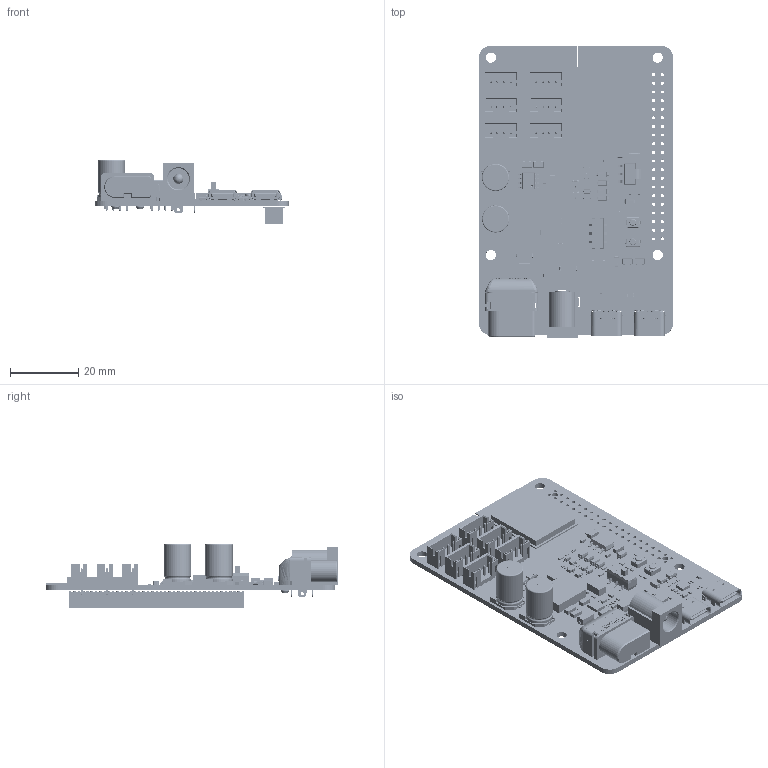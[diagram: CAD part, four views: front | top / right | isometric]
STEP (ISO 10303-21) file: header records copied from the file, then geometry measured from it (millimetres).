
FILE_DESCRIPTION(('Open CASCADE Model'),'2;1');
FILE_NAME('Open CASCADE Shape Model','2024-12-19T11:19:51',('Author'),( 'Open CASCADE'),'Open CASCADE STEP processor 6.5','Open CASCADE 6.5' ,'Unknown');
FILE_SCHEMA(('AUTOMOTIVE_DESIGN { 1 0 10303 214 1 1 1 1 }'));
Length unit declared in the file: millimetre
Products named in the file (223): PCB; Board; P7; PH2.0-LI-4P; PH2_0-LI-4P-4197_AF0_ASM; PH2_0-LI-4P-1329_AF0; PH2_0-LI-_1_200; P6; P5; P4; P3; P1; C15; CS_SMD_8x12; CT_8X12-C-3374_AF0_ASM; CT_8X12-C-12358_AF0_ASM; _4_1_2_3_4_AF0; _3_1__1_2_3_40001; _3_2__1_2_3_40001; C14; R34; R0402; R_0402-5222_AF0_ASM; R_0402-3099_AF0_ASM; _2_1_20001; 5_1_2_A; _7_AF0; R24; R23; R22; LED4; User_Library-LED_0603_R; User_Library-LED_0603_R_Pocket002; User_Library-LED_0603_R_Pad004; User_Library-LED_0603_R_Fillet; User_Library-LED_0603_R_Pocket001; User_Library-LED_0603_R_Pad; LED2; Q5; User_Library-SOT323_(SC70-3)-1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
Assembly tree (317 placements, depth 6):
  PCB
    Board
    P7
      PH2.0-LI-4P
        PH2_0-LI-4P-4197_AF0_ASM
          PH2_0-LI-4P-1329_AF0
          PH2_0-LI-_1_200  x4
    P6
      PH2.0-LI-4P
        PH2_0-LI-4P-4197_AF0_ASM
          PH2_0-LI-4P-1329_AF0
          PH2_0-LI-_1_200  x4
    P5
      PH2.0-LI-4P
        PH2_0-LI-4P-4197_AF0_ASM
          PH2_0-LI-4P-1329_AF0
          PH2_0-LI-_1_200  x4
    P4
      PH2.0-LI-4P
        PH2_0-LI-4P-4197_AF0_ASM
          PH2_0-LI-4P-1329_AF0
          PH2_0-LI-_1_200  x4
    P3
      PH2.0-LI-4P
        PH2_0-LI-4P-4197_AF0_ASM
          PH2_0-LI-4P-1329_AF0
          PH2_0-LI-_1_200  x4
    P1
      PH2.0-LI-4P
        PH2_0-LI-4P-4197_AF0_ASM
          PH2_0-LI-4P-1329_AF0
          PH2_0-LI-_1_200  x4
    C15
      CS_SMD_8x12
        CT_8X12-C-3374_AF0_ASM
          CT_8X12-C-12358_AF0_ASM
            _4_1_2_3_4_AF0
            _3_1__1_2_3_40001
            _3_2__1_2_3_40001
    C14
      CS_SMD_8x12
        CT_8X12-C-3374_AF0_ASM
          CT_8X12-C-12358_AF0_ASM
            _4_1_2_3_4_AF0
            _3_1__1_2_3_40001
            _3_2__1_2_3_40001
    R34
      R0402
        R_0402-5222_AF0_ASM
          R_0402-3099_AF0_ASM
            _2_1_20001
            5_1_2_A
            _7_AF0
    R24
      R0402
        R_0402-5222_AF0_ASM
          R_0402-3099_AF0_ASM
            _2_1_20001
            5_1_2_A
            _7_AF0
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Bounding box: 57.02 x 85.96 x 18.85 mm (x, y, z)
Volume: 14658.4 mm3; surface area: 23669.2 mm2
Topology: 357 solids, 387 shells, 43128 faces, 116055 edges, 76400 vertices
Faces by surface type: plane 30310, extrusion 7044, cylinder 3484, bspline 1848, sphere 314, cone 84, torus 36, revolution 8
Full cylindrical faces by diameter (mm): 0.762 x4, 0.813 x24, 0.95 x40, 1.8 x2, 2.9 x2, 3 x4
Entity records: 825295 total; most frequent: CARTESIAN_POINT 308394, DIRECTION 74566, VECTOR 53246, LINE 52107, ORIENTED_EDGE 51576, PCURVE 51576, DEFINITIONAL_REPRESENTATION 51576, EDGE_CURVE 25789
